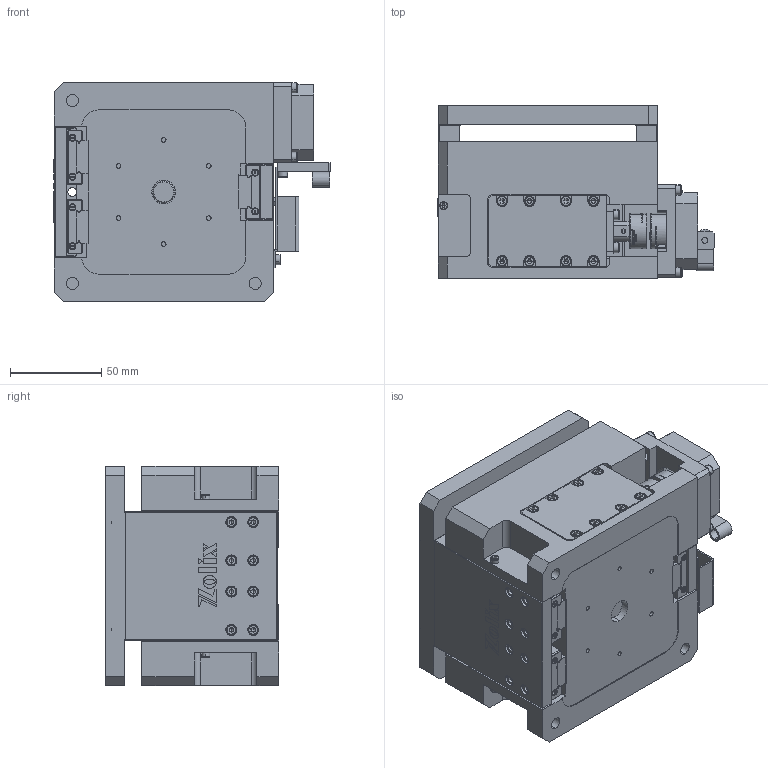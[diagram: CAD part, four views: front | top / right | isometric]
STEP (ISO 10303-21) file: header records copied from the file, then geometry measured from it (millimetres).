
FILE_DESCRIPTION (( 'STEP AP203' ), '1' );
FILE_NAME ('CZF20-120-P1(AP203).STEP', '2022-02-28T02:56:56', ( '' ), ( '' ), 'SwSTEP 2.0', 'SolidWorks 2017', '' );
FILE_SCHEMA (( 'CONFIG_CONTROL_DESIGN' ));
Length unit declared in the file: millimetre
Products named in the file (1): CZF20-120-P1(AP203)
Bounding box: 151.08 x 95 x 120 mm (x, y, z)
Surface area: 154624.1 mm2 (no closed solid volume)
Topology: 0 solids, 113 shells, 1322 faces, 5091 edges, 3657 vertices
Faces by surface type: plane 781, cylinder 322, cone 112, torus 94, bspline 13
Entity records: 54579 total; most frequent: CARTESIAN_POINT 13197, DIRECTION 8451, ORIENTED_EDGE 7467, EDGE_CURVE 4997, VERTEX_POINT 3657, LINE 3075, VECTOR 3075, AXIS2_PLACEMENT_3D 2688
